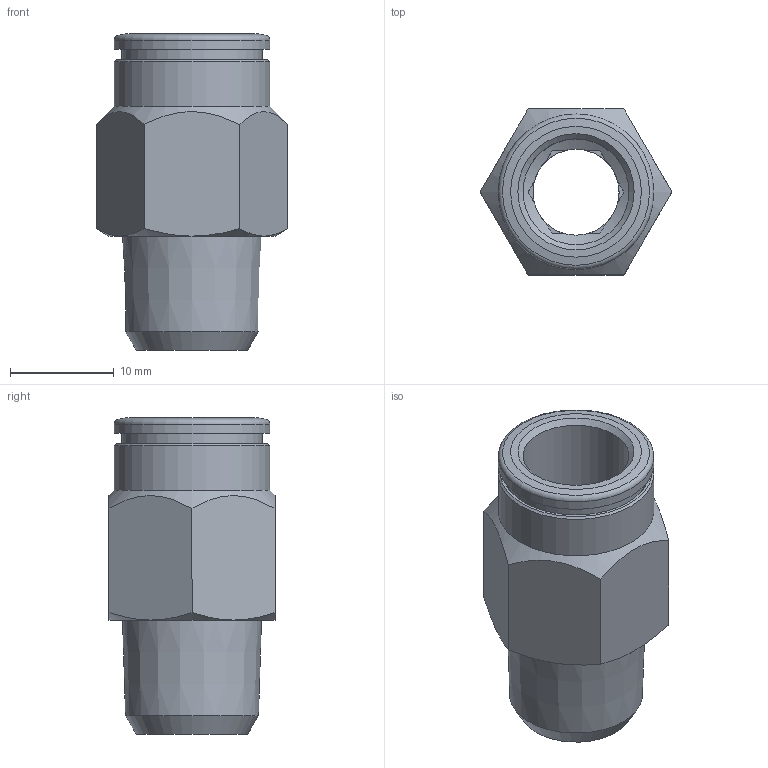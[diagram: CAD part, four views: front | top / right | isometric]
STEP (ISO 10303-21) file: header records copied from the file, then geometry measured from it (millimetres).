
FILE_DESCRIPTION(/* description */ (''),/* implementation_level */ '2;1');
FILE_NAME(/* name */ '200159-ES_STX01K_10_R14_19.05.16',/* time_stamp */ '2016-05-19T12:06:51+02:00',/* author */ (''),/* organization */ (''),/* preprocessor_version */ 'ST-DEVELOPER v14',/* originating_system */ 'HiCAD 2013 1802.4 Build 509',/* authorisation */ '');
FILE_SCHEMA (('AUTOMOTIVE_DESIGN { 1 0 10303 214 1 1 1 1 }'));
Length unit declared in the file: millimetre
Products named in the file (3): Root; R200159-ES-N; DR10-N
Assembly tree (2 placements, depth 2):
  Root
    R200159-ES-N
    DR10-N
Bounding box: 18.48 x 16 x 30.5 mm (x, y, z)
Volume: 2897.9 mm3; surface area: 3364.4 mm2
Topology: 2 solids, 2 shells, 59 faces, 137 edges, 85 vertices
Faces by surface type: plane 31, cone 18, cylinder 9, torus 1
Full cylindrical faces by diameter (mm): 8.3 x1, 10.2 x2, 12.3 x1, 13 x1, 13.6 x1, 13.7 x1, 15 x2
Entity records: 2725 total; most frequent: DIRECTION 312, CARTESIAN_POINT 255, PRESENTATION_STYLE_ASSIGNMENT 224, COLOUR_RGB 223, DRAUGHTING_PRE_DEFINED_CURVE_FONT 222, CURVE_STYLE 222, OVER_RIDING_STYLED_ITEM 222, ORIENTED_EDGE 222
